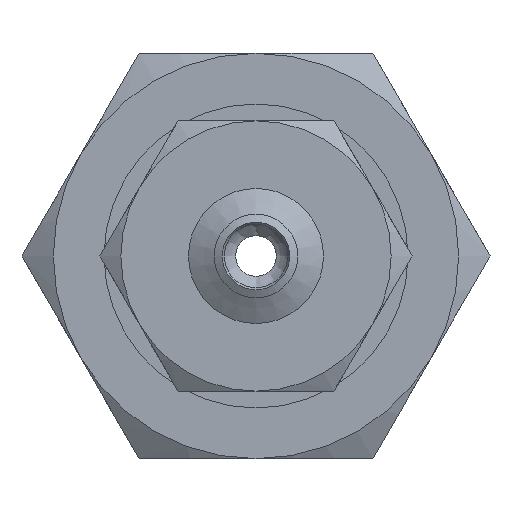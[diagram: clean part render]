
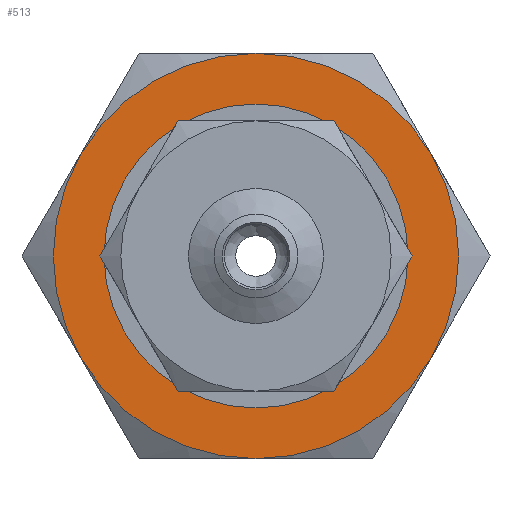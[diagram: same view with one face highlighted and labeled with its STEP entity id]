
A CAD part, front view. The second image highlights one B-rep face of the part: STEP entity #513.
In plain terms, the highlighted planar face has unit normal (0, -1, 0) as drawn and (-1, 0, 0) by its records, which use the part's own axes.
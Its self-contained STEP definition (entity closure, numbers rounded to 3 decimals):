
#513=ADVANCED_FACE('',(#705,#706),#707,.F.);
#705=FACE_BOUND('',#994,.T.);
#706=FACE_OUTER_BOUND('',#995,.T.);
#707=PLANE('',#996);
#994=EDGE_LOOP('',(#1591));
#995=EDGE_LOOP('',(#1592,#1593,#1594,#1595,#1596,#1597));
#996=AXIS2_PLACEMENT_3D('',#1598,#1599,#1600);
#1591=ORIENTED_EDGE('',*,*,#2067,.T.);
#1592=ORIENTED_EDGE('',*,*,#2066,.F.);
#1593=ORIENTED_EDGE('',*,*,#2039,.F.);
#1594=ORIENTED_EDGE('',*,*,#2031,.F.);
#1595=ORIENTED_EDGE('',*,*,#2058,.F.);
#1596=ORIENTED_EDGE('',*,*,#2061,.F.);
#1597=ORIENTED_EDGE('',*,*,#2069,.F.);
#1598=CARTESIAN_POINT('',(0.,0.0,0.0));
#1599=DIRECTION('',(1.0,0.0,0.0));
#1600=DIRECTION('',(0.0,1.0,0.0));
#2031=EDGE_CURVE('',#2297,#2298,#2299,.T.);
#2039=EDGE_CURVE('',#2298,#2312,#2313,.T.);
#2058=EDGE_CURVE('',#2345,#2297,#2346,.T.);
#2061=EDGE_CURVE('',#2332,#2345,#2349,.T.);
#2066=EDGE_CURVE('',#2312,#2353,#2356,.T.);
#2067=EDGE_CURVE('',#2357,#2357,#2358,.T.);
#2069=EDGE_CURVE('',#2353,#2332,#2361,.T.);
#2297=VERTEX_POINT('',#2739);
#2298=VERTEX_POINT('',#2740);
#2299=CIRCLE('',#2741,6.0);
#2312=VERTEX_POINT('',#2806);
#2313=CIRCLE('',#2807,6.0);
#2332=VERTEX_POINT('',#2889);
#2345=VERTEX_POINT('',#2963);
#2346=CIRCLE('',#2964,6.0);
#2349=CIRCLE('',#2987,6.0);
#2353=VERTEX_POINT('',#3011);
#2356=CIRCLE('',#3034,6.0);
#2357=VERTEX_POINT('',#3035);
#2358=CIRCLE('',#3036,4.0);
#2361=CIRCLE('',#3039,6.0);
#2739=CARTESIAN_POINT('',(0.,-5.196,-3.0));
#2740=CARTESIAN_POINT('',(0.,0.0,-6.0));
#2741=AXIS2_PLACEMENT_3D('',#3337,#3338,#3339);
#2806=CARTESIAN_POINT('',(0.,5.196,-3.0));
#2807=AXIS2_PLACEMENT_3D('',#3342,#3343,#3344);
#2889=CARTESIAN_POINT('',(0.,0.0,6.0));
#2963=CARTESIAN_POINT('',(0.,-5.196,3.0));
#2964=AXIS2_PLACEMENT_3D('',#3355,#3356,#3357);
#2987=AXIS2_PLACEMENT_3D('',#3358,#3359,#3360);
#3011=CARTESIAN_POINT('',(0.,5.196,3.0));
#3034=AXIS2_PLACEMENT_3D('',#3361,#3362,#3363);
#3035=CARTESIAN_POINT('',(0.,0.0,-4.0));
#3036=AXIS2_PLACEMENT_3D('',#3364,#3365,#3366);
#3039=AXIS2_PLACEMENT_3D('',#3370,#3371,#3372);
#3337=CARTESIAN_POINT('',(0.,0.0,0.0));
#3338=DIRECTION('',(1.0,0.0,0.0));
#3339=DIRECTION('',(0.0,0.0,-1.0));
#3342=CARTESIAN_POINT('',(0.,0.0,0.0));
#3343=DIRECTION('',(1.0,0.0,0.0));
#3344=DIRECTION('',(0.0,0.0,-1.0));
#3355=CARTESIAN_POINT('',(0.,0.0,0.0));
#3356=DIRECTION('',(1.0,0.0,0.0));
#3357=DIRECTION('',(0.0,0.0,-1.0));
#3358=CARTESIAN_POINT('',(0.,0.0,0.0));
#3359=DIRECTION('',(1.0,0.0,0.0));
#3360=DIRECTION('',(0.0,0.0,-1.0));
#3361=CARTESIAN_POINT('',(0.,0.0,0.0));
#3362=DIRECTION('',(1.0,0.0,0.0));
#3363=DIRECTION('',(0.0,0.0,-1.0));
#3364=CARTESIAN_POINT('',(0.,0.0,0.0));
#3365=DIRECTION('',(1.0,0.0,0.0));
#3366=DIRECTION('',(0.0,0.0,-1.0));
#3370=CARTESIAN_POINT('',(0.,0.0,0.0));
#3371=DIRECTION('',(1.0,0.0,0.0));
#3372=DIRECTION('',(0.0,0.0,-1.0));
